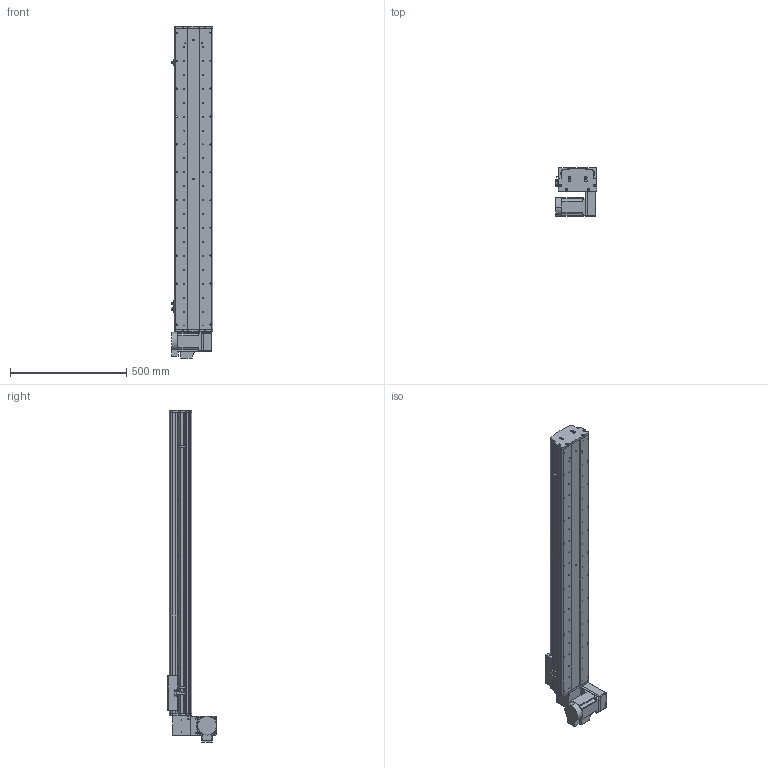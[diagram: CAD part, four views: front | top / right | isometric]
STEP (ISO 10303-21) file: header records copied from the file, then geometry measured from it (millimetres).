
FILE_DESCRIPTION (( 'STEP AP214' ), '1' );
FILE_NAME ('KSD165B-S1050-MRD-CM.STEP', '2017-10-17T00:37:00', ( '微软用户' ), ( '微软中国' ), 'SwSTEP 2.0', 'SolidWorks 2014', '' );
FILE_SCHEMA (( 'AUTOMOTIVE_DESIGN' ));
Length unit declared in the file: millimetre
Products named in the file (17): KSD165模组同步带底板-1050行程; 拸秶雄ん750W侜督萇儂; 165宽马达安装板同步带右; U倰嫖萇假蚾璃; U倰嫖萇EEㄜSX672; 覜茼え68遵圉猾敕; KSD165模组-同步带-防撞垫2; KSD165模组同步带-防撞垫1; KSD165耀郪-ヶ傷啣1-肮祭湍; KSD165模组-后端板1-同步带; KSD165模组-同步带滑动座-最新版; KSD165B-S1050-MRD-CM; 130宽模组马达安装板连板上下折丝杆同步带; 130宽模组保护罩上下左右折-同步带; HTPA26S5M250-A-H8 750W萇儂蚚; HTPA26S5M250-A-H8 400W萇儂蚚 ; KSD165模组-同步带防尘盖1-1050行程
Assembly tree (20 placements, depth 2):
  KSD165B-S1050-MRD-CM
    KSD165模组-同步带滑动座-最新版
    KSD165模组-后端板1-同步带
    KSD165耀郪-ヶ傷啣1-肮祭湍
    KSD165模组同步带-防撞垫1
    KSD165模组-同步带-防撞垫2
    覜茼え68遵圉猾敕
    U倰嫖萇EEㄜSX672  x3
    U倰嫖萇假蚾璃  x3
    165宽马达安装板同步带右
    拸秶雄ん750W侜督萇儂
    KSD165模组同步带底板-1050行程
    KSD165模组-同步带防尘盖1-1050行程
    HTPA26S5M250-A-H8 400W萇儂蚚 
    HTPA26S5M250-A-H8 750W萇儂蚚
    130宽模组保护罩上下左右折-同步带
    130宽模组马达安装板连板上下折丝杆同步带
Bounding box: 178.7 x 210 x 1430.5 mm (x, y, z)
Volume: 8144334.7 mm3; surface area: 1892940.6 mm2
Topology: 21 solids, 21 shells, 1979 faces, 5592 edges, 3652 vertices
Faces by surface type: cylinder 1279, plane 588, cone 112
Entity records: 64484 total; most frequent: CARTESIAN_POINT 13204, DIRECTION 10580, ORIENTED_EDGE 9844, EDGE_CURVE 4922, AXIS2_PLACEMENT_3D 4154, VERTEX_POINT 3244, CIRCLE 2372, LINE 2272
